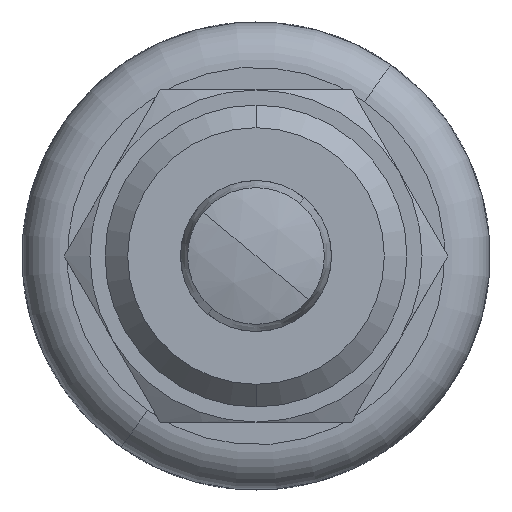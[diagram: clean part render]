
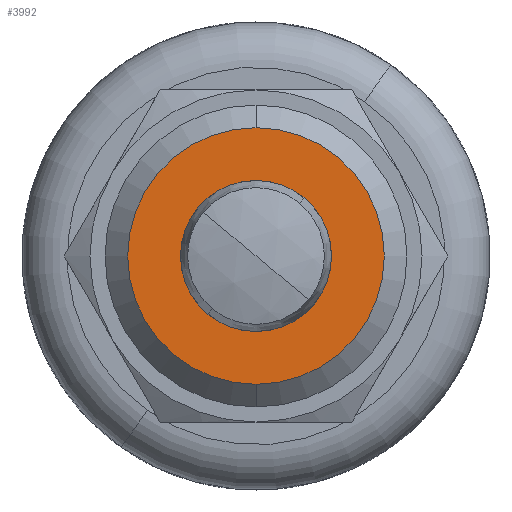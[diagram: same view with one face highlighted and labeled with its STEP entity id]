
A CAD part, front view. The second image highlights one B-rep face of the part: STEP entity #3992.
In plain terms, the highlighted planar face has unit normal (0, -1, 0).
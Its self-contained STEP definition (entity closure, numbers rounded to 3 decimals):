
#3838 = VERTEX_POINT ( 'NONE', #8975 ) ;
#3892 = EDGE_CURVE ( 'NONE', #3893, #3894, #9056, .T. ) ;
#3893 = VERTEX_POINT ( 'NONE', #9113 ) ;
#3894 = VERTEX_POINT ( 'NONE', #9112 ) ;
#3897 = EDGE_CURVE ( 'NONE', #3838, #3898, #9107, .T. ) ;
#3898 = VERTEX_POINT ( 'NONE', #9102 ) ;
#3932 = EDGE_CURVE ( 'NONE', #3894, #3893, #9160, .T. ) ;
#3967 = EDGE_LOOP ( 'NONE', ( #3968, #3970 ) ) ;
#3968 = ORIENTED_EDGE ( 'NONE', *, *, #3969, .T. ) ;
#3969 = EDGE_CURVE ( 'NONE', #3898, #3838, #9221, .T. ) ;
#3970 = ORIENTED_EDGE ( 'NONE', *, *, #3897, .T. ) ;
#3971 = EDGE_LOOP ( 'NONE', ( #3972, #3973 ) ) ;
#3972 = ORIENTED_EDGE ( 'NONE', *, *, #3932, .T. ) ;
#3973 = ORIENTED_EDGE ( 'NONE', *, *, #3892, .T. ) ;
#3992 = ADVANCED_FACE ( 'NONE', ( #9296, #9295 ), #9294, .F. ) ;
#8975 = CARTESIAN_POINT ( 'NONE',  ( 0., -33., -8.5 ) ) ;
#9056 = CIRCLE ( 'NONE', #9062, 5. ) ;
#9062 = AXIS2_PLACEMENT_3D ( 'NONE', #9116, #9115, #9114 ) ;
#9102 = CARTESIAN_POINT ( 'NONE',  ( 0., -33., 8.5 ) ) ;
#9103 = DIRECTION ( 'NONE',  ( 0., 0., 1. ) ) ;
#9104 = DIRECTION ( 'NONE',  ( 0., -1., 0. ) ) ;
#9105 = CARTESIAN_POINT ( 'NONE',  ( 0., -33., 0. ) ) ;
#9106 = AXIS2_PLACEMENT_3D ( 'NONE', #9105, #9104, #9103 ) ;
#9107 = CIRCLE ( 'NONE', #9106, 8.5 ) ;
#9112 = CARTESIAN_POINT ( 'NONE',  ( 0., -33., 5. ) ) ;
#9113 = CARTESIAN_POINT ( 'NONE',  ( 0., -33., -5. ) ) ;
#9114 = DIRECTION ( 'NONE',  ( 0., 0., 1. ) ) ;
#9115 = DIRECTION ( 'NONE',  ( 0., 1., 0. ) ) ;
#9116 = CARTESIAN_POINT ( 'NONE',  ( 0., -33., 0. ) ) ;
#9156 = DIRECTION ( 'NONE',  ( 0., 0., 1. ) ) ;
#9157 = DIRECTION ( 'NONE',  ( 0., 1., 0. ) ) ;
#9158 = CARTESIAN_POINT ( 'NONE',  ( 0., -33., 0. ) ) ;
#9159 = AXIS2_PLACEMENT_3D ( 'NONE', #9158, #9157, #9156 ) ;
#9160 = CIRCLE ( 'NONE', #9159, 5. ) ;
#9217 = DIRECTION ( 'NONE',  ( 0., 0., 1. ) ) ;
#9218 = DIRECTION ( 'NONE',  ( 0., -1., 0. ) ) ;
#9219 = CARTESIAN_POINT ( 'NONE',  ( 0., -33., 0. ) ) ;
#9220 = AXIS2_PLACEMENT_3D ( 'NONE', #9219, #9218, #9217 ) ;
#9221 = CIRCLE ( 'NONE', #9220, 8.5 ) ;
#9289 = DIRECTION ( 'NONE',  ( 0., 0., 1. ) ) ;
#9290 = DIRECTION ( 'NONE',  ( 0., 1., 0. ) ) ;
#9291 = CARTESIAN_POINT ( 'NONE',  ( 0., -33., 0. ) ) ;
#9293 = AXIS2_PLACEMENT_3D ( 'NONE', #9291, #9290, #9289 ) ;
#9294 = PLANE ( 'NONE',  #9293 ) ;
#9295 = FACE_BOUND ( 'NONE', #3971, .T. ) ;
#9296 = FACE_OUTER_BOUND ( 'NONE', #3967, .T. ) ;
